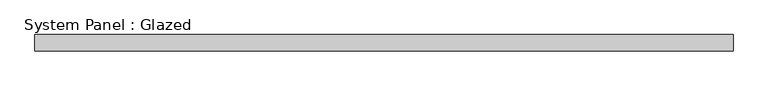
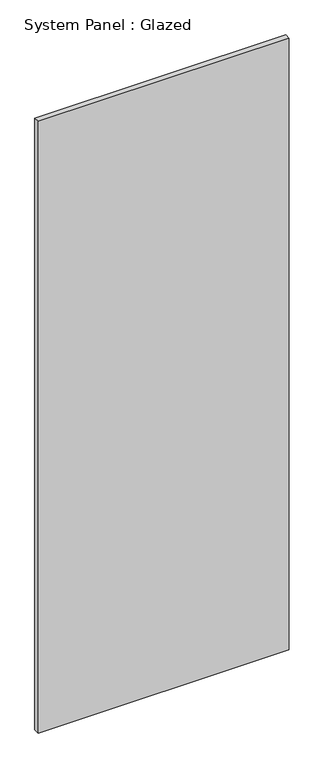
"""IFC4 building model written with IfcOpenShell, lengths in millimetres: plate geometry, System Panel : Glazed."""

from ifc_helpers import new_model, si_unit, origin, origin_with_axes, place, context, project, spatial, polyline, outline, extrude, source, transform, mapped, element, save


def system_panel_glazed_9aebfb98(model_context):
    return source(origin(), model_context, "Body", "SweptSolid", [
        extrude(outline(polyline([(543.6499999, 19.05), (-543.6499999, 19.05), (-543.6499999, 44.45), (543.6499999, 44.45), (543.6499999, 19.05)])), origin_with_axes(), (0.0, 0.0, 1.0), 2800.0),
    ])


if __name__ == "__main__":
    model = new_model("IFC4")
    model_context = context("Model", 3, world=origin())
    ifc_project = project(units=[si_unit("LENGTHUNIT", "METRE", prefix="MILLI")], contexts=[model_context])
    site = spatial("IfcSite", under=ifc_project)
    building = spatial("IfcBuilding", under=site)
    placement = place(None, origin())
    system_panel_glazed_shape = system_panel_glazed_9aebfb98(model_context)
    element("IfcPlate", 1, ObjectType="System Panel : Glazed", at=placement, inside=building, context=model_context, shape_type="MappedRepresentation", body=[
        mapped(system_panel_glazed_shape, transform((0.0, 0.0, 0.0), x_axis=(1.0, 0.0, 0.0), y_axis=(0.0, 1.0, 0.0), z_axis=(0.0, 0.0, 1.0))),
    ])
    save(model, "model.ifc")
